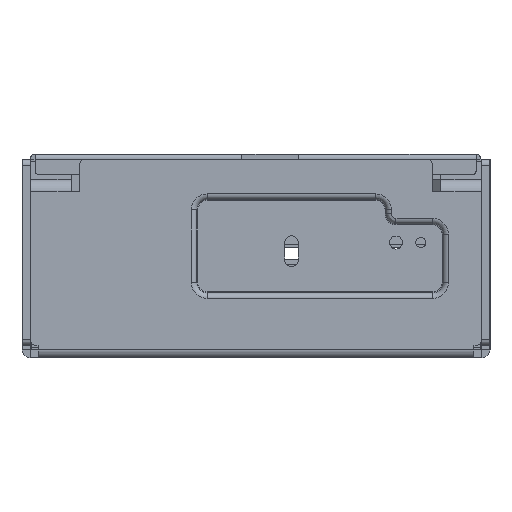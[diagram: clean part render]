
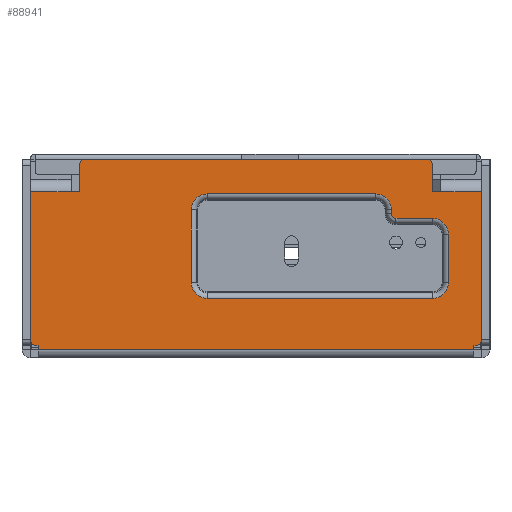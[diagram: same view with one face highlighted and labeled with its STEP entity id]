
A CAD part, left-side view. The second image highlights one B-rep face of the part: STEP entity #88941.
In plain terms, the highlighted planar face has unit normal (-1, 0, 0).
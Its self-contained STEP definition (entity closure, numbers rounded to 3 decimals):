
#82456=DIRECTION('',(0.,0.,-1.));
#82457=VECTOR('',#82456,1.);
#82458=CARTESIAN_POINT('',(0.,62.111,1.));
#82459=LINE('',#82458,#82457);
#82502=DIRECTION('',(0.,1.,0.));
#82503=VECTOR('',#82502,10.);
#82504=CARTESIAN_POINT('',(0.,54.011,38.8));
#82505=LINE('',#82504,#82503);
#82510=CARTESIAN_POINT('',(0.,50.511,45.3));
#82511=DIRECTION('',(1.,0.,0.));
#82512=DIRECTION('',(0.,1.,0.));
#82513=AXIS2_PLACEMENT_3D('',#82510,#82511,#82512);
#82515=DIRECTION('',(0.,-1.,0.));
#82516=VECTOR('',#82515,83.8);
#82517=CARTESIAN_POINT('',(0.,50.511,46.8));
#82518=LINE('',#82517,#82516);
#82519=CARTESIAN_POINT('',(0.,-33.289,45.3));
#82520=DIRECTION('',(1.,0.,0.));
#82521=DIRECTION('',(0.,0.,1.));
#82522=AXIS2_PLACEMENT_3D('',#82519,#82520,#82521);
#82524=DIRECTION('',(0.,-1.,0.));
#82525=VECTOR('',#82524,2.);
#82526=CARTESIAN_POINT('',(0.,-34.789,38.8));
#82527=LINE('',#82526,#82525);
#82528=DIRECTION('',(0.,0.,-1.));
#82529=VECTOR('',#82528,36.3);
#82530=CARTESIAN_POINT('',(0.,-46.789,38.8));
#82531=LINE('',#82530,#82529);
#82532=CARTESIAN_POINT('',(0.,-45.289,2.5));
#82533=DIRECTION('',(1.,0.,0.));
#82534=DIRECTION('',(0.,-1.,0.));
#82535=AXIS2_PLACEMENT_3D('',#82532,#82533,#82534);
#82537=DIRECTION('',(0.,1.,0.));
#82538=VECTOR('',#82537,0.4);
#82539=CARTESIAN_POINT('',(0.,-45.289,1.));
#82540=LINE('',#82539,#82538);
#82541=DIRECTION('',(0.,0.,-1.));
#82542=VECTOR('',#82541,1.);
#82543=CARTESIAN_POINT('',(0.,-44.889,1.));
#82544=LINE('',#82543,#82542);
#82545=DIRECTION('',(0.,1.,0.));
#82546=VECTOR('',#82545,0.4);
#82547=CARTESIAN_POINT('',(0.,62.111,1.));
#82548=LINE('',#82547,#82546);
#82549=CARTESIAN_POINT('',(0.,62.511,2.5));
#82550=DIRECTION('',(1.,0.,0.));
#82551=DIRECTION('',(0.,0.,-1.));
#82552=AXIS2_PLACEMENT_3D('',#82549,#82550,#82551);
#82554=DIRECTION('',(0.,0.,1.));
#82555=VECTOR('',#82554,36.3);
#82556=CARTESIAN_POINT('',(0.,64.011,2.5));
#82557=LINE('',#82556,#82555);
#82558=DIRECTION('',(0.,-1.,0.));
#82559=VECTOR('',#82558,2.);
#82560=CARTESIAN_POINT('',(0.,54.011,38.8));
#82561=LINE('',#82560,#82559);
#82562=DIRECTION('',(0.,0.,1.));
#82563=VECTOR('',#82562,6.5);
#82564=CARTESIAN_POINT('',(0.,52.011,38.8));
#82565=LINE('',#82564,#82563);
#82566=CARTESIAN_POINT('',(0.,-20.789,34.344));
#82567=DIRECTION('',(-1.,0.,0.));
#82568=DIRECTION('',(0.,-1.,0.));
#82569=AXIS2_PLACEMENT_3D('',#82566,#82567,#82568);
#82571=CARTESIAN_POINT('',(0.,20.611,34.344));
#82572=DIRECTION('',(-1.,0.,0.));
#82573=DIRECTION('',(0.,0.,1.));
#82574=AXIS2_PLACEMENT_3D('',#82571,#82572,#82573);
#82576=CARTESIAN_POINT('',(0.,20.611,16.5));
#82577=DIRECTION('',(-1.,0.,0.));
#82578=DIRECTION('',(0.,1.,0.));
#82579=AXIS2_PLACEMENT_3D('',#82576,#82577,#82578);
#82581=CARTESIAN_POINT('',(0.,-34.789,16.5));
#82582=DIRECTION('',(-1.,0.,0.));
#82583=DIRECTION('',(0.,0.,-1.));
#82584=AXIS2_PLACEMENT_3D('',#82581,#82582,#82583);
#82586=CARTESIAN_POINT('',(0.,-34.789,28.344));
#82587=DIRECTION('',(-1.,0.,0.));
#82588=DIRECTION('',(0.,-1.,0.));
#82589=AXIS2_PLACEMENT_3D('',#82586,#82587,#82588);
#82591=CARTESIAN_POINT('',(0.,-25.789,
33.344));
#82592=DIRECTION('',(1.,0.,0.));
#82593=DIRECTION('',(0.,0.,-1.));
#82594=AXIS2_PLACEMENT_3D('',#82591,#82592,#82593);
#82616=DIRECTION('',(0.,0.,1.));
#82617=VECTOR('',#82616,6.5);
#82618=CARTESIAN_POINT('',(0.,-34.789,38.8));
#82619=LINE('',#82618,#82617);
#82646=DIRECTION('',(0.,1.,0.));
#82647=VECTOR('',#82646,10.);
#82648=CARTESIAN_POINT('',(0.,-46.789,38.8));
#82649=LINE('',#82648,#82647);
#82958=DIRECTION('',(0.,-1.,0.));
#82959=VECTOR('',#82958,107.);
#82960=CARTESIAN_POINT('',(0.,62.111,0.));
#82961=LINE('',#82960,#82959);
#83063=DIRECTION('',(0.,0.,-1.));
#83064=VECTOR('',#83063,1.);
#83065=CARTESIAN_POINT('',(0.,-24.689,34.344));
#83066=LINE('',#83065,#83064);
#83100=DIRECTION('',(0.,-1.,0.));
#83101=VECTOR('',#83100,9.);
#83102=CARTESIAN_POINT('',(0.,-25.789,
32.244));
#83103=LINE('',#83102,#83101);
#83137=DIRECTION('',(0.,0.,-1.));
#83138=VECTOR('',#83137,11.844);
#83139=CARTESIAN_POINT('',(0.,-38.689,28.344));
#83140=LINE('',#83139,#83138);
#83160=DIRECTION('',(0.,1.,0.));
#83161=VECTOR('',#83160,55.4);
#83162=CARTESIAN_POINT('',(0.,-34.789,12.6));
#83163=LINE('',#83162,#83161);
#83207=DIRECTION('',(0.,0.,1.));
#83208=VECTOR('',#83207,17.844);
#83209=CARTESIAN_POINT('',(0.,24.511,16.5));
#83210=LINE('',#83209,#83208);
#83244=DIRECTION('',(0.,-1.,0.));
#83245=VECTOR('',#83244,41.4);
#83246=CARTESIAN_POINT('',(0.,20.611,38.244));
#83247=LINE('',#83246,#83245);
#86594=CARTESIAN_POINT('',(0.,-44.889,0.));
#86595=VERTEX_POINT('',#86594);
#86596=CARTESIAN_POINT('',(0.,-44.889,1.));
#86597=VERTEX_POINT('',#86596);
#86848=CARTESIAN_POINT('',(0.,62.111,0.));
#86849=VERTEX_POINT('',#86848);
#86850=CARTESIAN_POINT('',(0.,62.111,1.));
#86851=VERTEX_POINT('',#86850);
#86852=CARTESIAN_POINT('',(0.,62.511,1.));
#86853=VERTEX_POINT('',#86852);
#86854=CARTESIAN_POINT('',(0.,64.011,2.5));
#86855=VERTEX_POINT('',#86854);
#86856=CARTESIAN_POINT('',(0.,64.011,38.8));
#86857=VERTEX_POINT('',#86856);
#86862=CARTESIAN_POINT('',(0.,54.011,38.8));
#86863=VERTEX_POINT('',#86862);
#86866=CARTESIAN_POINT('',(0.,52.011,45.3));
#86867=CARTESIAN_POINT('',(0.,50.511,46.8));
#86868=VERTEX_POINT('',#86866);
#86869=VERTEX_POINT('',#86867);
#86870=CARTESIAN_POINT('',(0.,-33.289,46.8));
#86871=VERTEX_POINT('',#86870);
#86872=CARTESIAN_POINT('',(0.,-34.789,45.3));
#86873=VERTEX_POINT('',#86872);
#86874=CARTESIAN_POINT('',(0.,-34.789,38.8));
#86875=VERTEX_POINT('',#86874);
#86876=CARTESIAN_POINT('',(0.,-36.789,38.8));
#86877=VERTEX_POINT('',#86876);
#86878=CARTESIAN_POINT('',(0.,-46.789,38.8));
#86879=VERTEX_POINT('',#86878);
#86880=CARTESIAN_POINT('',(0.,-46.789,2.5));
#86881=VERTEX_POINT('',#86880);
#86882=CARTESIAN_POINT('',(0.,-45.289,1.));
#86883=VERTEX_POINT('',#86882);
#86884=CARTESIAN_POINT('',(0.,52.011,38.8));
#86885=VERTEX_POINT('',#86884);
#86886=CARTESIAN_POINT('',(0.,-24.689,34.344));
#86887=CARTESIAN_POINT('',(0.,-20.789,38.244));
#86888=VERTEX_POINT('',#86886);
#86889=VERTEX_POINT('',#86887);
#86890=CARTESIAN_POINT('',(0.,20.611,38.244));
#86891=VERTEX_POINT('',#86890);
#86892=CARTESIAN_POINT('',(0.,24.511,34.344));
#86893=VERTEX_POINT('',#86892);
#86894=CARTESIAN_POINT('',(0.,24.511,16.5));
#86895=VERTEX_POINT('',#86894);
#86896=CARTESIAN_POINT('',(0.,20.611,12.6));
#86897=VERTEX_POINT('',#86896);
#86898=CARTESIAN_POINT('',(0.,-34.789,12.6));
#86899=VERTEX_POINT('',#86898);
#86900=CARTESIAN_POINT('',(0.,-38.689,16.5));
#86901=VERTEX_POINT('',#86900);
#86902=CARTESIAN_POINT('',(0.,-38.689,28.344));
#86903=VERTEX_POINT('',#86902);
#86904=CARTESIAN_POINT('',(0.,-34.789,32.244));
#86905=VERTEX_POINT('',#86904);
#86906=CARTESIAN_POINT('',(0.,-25.789,
32.244));
#86907=VERTEX_POINT('',#86906);
#86908=CARTESIAN_POINT('',(0.,-24.689,
33.344));
#86909=VERTEX_POINT('',#86908);
#88878=CARTESIAN_POINT('',(0.,-46.889,-2.));
#88879=DIRECTION('',(-1.,0.,0.));
#88880=DIRECTION('',(0.,-1.,0.));
#88881=AXIS2_PLACEMENT_3D('',#88878,#88879,#88880);
#88882=PLANE('',#88881);
#88884=ORIENTED_EDGE('',*,*,#88883,.T.);
#88886=ORIENTED_EDGE('',*,*,#88885,.T.);
#88888=ORIENTED_EDGE('',*,*,#88887,.T.);
#88890=ORIENTED_EDGE('',*,*,#88889,.F.);
#88892=ORIENTED_EDGE('',*,*,#88891,.T.);
#88894=ORIENTED_EDGE('',*,*,#88893,.F.);
#88896=ORIENTED_EDGE('',*,*,#88895,.T.);
#88898=ORIENTED_EDGE('',*,*,#88897,.T.);
#88900=ORIENTED_EDGE('',*,*,#88899,.T.);
#88901=ORIENTED_EDGE('',*,*,#88134,.T.);
#88903=ORIENTED_EDGE('',*,*,#88902,.F.);
#88904=ORIENTED_EDGE('',*,*,#88800,.F.);
#88905=ORIENTED_EDGE('',*,*,#88813,.T.);
#88906=ORIENTED_EDGE('',*,*,#88828,.T.);
#88907=ORIENTED_EDGE('',*,*,#88841,.T.);
#88908=ORIENTED_EDGE('',*,*,#88868,.F.);
#88910=ORIENTED_EDGE('',*,*,#88909,.T.);
#88912=ORIENTED_EDGE('',*,*,#88911,.T.);
#88913=EDGE_LOOP('',(#88884,#88886,#88888,#88890,#88892,#88894,#88896,#88898,
#88900,#88901,#88903,#88904,#88905,#88906,#88907,#88908,#88910,#88912));
#88914=FACE_OUTER_BOUND('',#88913,.F.);
#88916=ORIENTED_EDGE('',*,*,#88915,.T.);
#88918=ORIENTED_EDGE('',*,*,#88917,.F.);
#88920=ORIENTED_EDGE('',*,*,#88919,.T.);
#88922=ORIENTED_EDGE('',*,*,#88921,.F.);
#88924=ORIENTED_EDGE('',*,*,#88923,.T.);
#88926=ORIENTED_EDGE('',*,*,#88925,.F.);
#88928=ORIENTED_EDGE('',*,*,#88927,.T.);
#88930=ORIENTED_EDGE('',*,*,#88929,.F.);
#88932=ORIENTED_EDGE('',*,*,#88931,.T.);
#88934=ORIENTED_EDGE('',*,*,#88933,.F.);
#88936=ORIENTED_EDGE('',*,*,#88935,.T.);
#88938=ORIENTED_EDGE('',*,*,#88937,.F.);
#88939=EDGE_LOOP('',(#88916,#88918,#88920,#88922,#88924,#88926,#88928,#88930,
#88932,#88934,#88936,#88938));
#88940=FACE_BOUND('',#88939,.F.);
#82514=CIRCLE('',#82513,1.5);
#82523=CIRCLE('',#82522,1.5);
#82536=CIRCLE('',#82535,1.5);
#82553=CIRCLE('',#82552,1.5);
#82570=CIRCLE('',#82569,3.9);
#82575=CIRCLE('',#82574,3.9);
#82580=CIRCLE('',#82579,3.9);
#82585=CIRCLE('',#82584,3.9);
#82590=CIRCLE('',#82589,3.9);
#82595=CIRCLE('',#82594,1.1);
#88134=EDGE_CURVE('',#86597,#86595,#82544,.T.);
#88800=EDGE_CURVE('',#86851,#86849,#82459,.T.);
#88813=EDGE_CURVE('',#86851,#86853,#82548,.T.);
#88828=EDGE_CURVE('',#86853,#86855,#82553,.T.);
#88841=EDGE_CURVE('',#86855,#86857,#82557,.T.);
#88868=EDGE_CURVE('',#86863,#86857,#82505,.T.);
#88883=EDGE_CURVE('',#86868,#86869,#82514,.T.);
#88885=EDGE_CURVE('',#86869,#86871,#82518,.T.);
#88887=EDGE_CURVE('',#86871,#86873,#82523,.T.);
#88889=EDGE_CURVE('',#86875,#86873,#82619,.T.);
#88891=EDGE_CURVE('',#86875,#86877,#82527,.T.);
#88893=EDGE_CURVE('',#86879,#86877,#82649,.T.);
#88895=EDGE_CURVE('',#86879,#86881,#82531,.T.);
#88897=EDGE_CURVE('',#86881,#86883,#82536,.T.);
#88899=EDGE_CURVE('',#86883,#86597,#82540,.T.);
#88902=EDGE_CURVE('',#86849,#86595,#82961,.T.);
#88909=EDGE_CURVE('',#86863,#86885,#82561,.T.);
#88911=EDGE_CURVE('',#86885,#86868,#82565,.T.);
#88915=EDGE_CURVE('',#86888,#86889,#82570,.T.);
#88917=EDGE_CURVE('',#86891,#86889,#83247,.T.);
#88919=EDGE_CURVE('',#86891,#86893,#82575,.T.);
#88921=EDGE_CURVE('',#86895,#86893,#83210,.T.);
#88923=EDGE_CURVE('',#86895,#86897,#82580,.T.);
#88925=EDGE_CURVE('',#86899,#86897,#83163,.T.);
#88927=EDGE_CURVE('',#86899,#86901,#82585,.T.);
#88929=EDGE_CURVE('',#86903,#86901,#83140,.T.);
#88931=EDGE_CURVE('',#86903,#86905,#82590,.T.);
#88933=EDGE_CURVE('',#86907,#86905,#83103,.T.);
#88935=EDGE_CURVE('',#86907,#86909,#82595,.T.);
#88937=EDGE_CURVE('',#86888,#86909,#83066,.T.);
#88941=ADVANCED_FACE('',(#88914,#88940),#88882,.T.);
